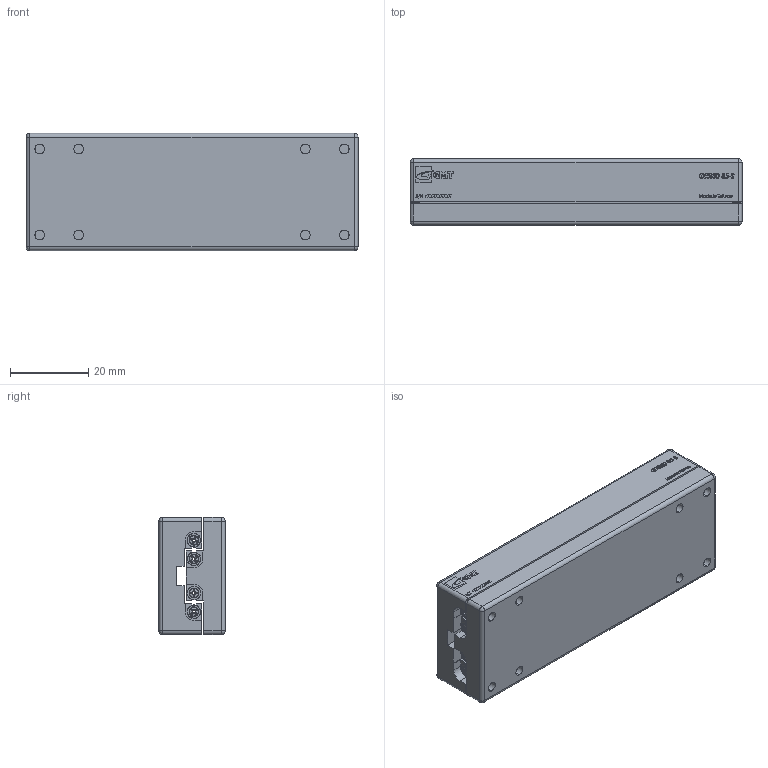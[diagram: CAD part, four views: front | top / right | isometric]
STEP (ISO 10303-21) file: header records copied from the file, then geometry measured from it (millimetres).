
FILE_DESCRIPTION (( 'STEP AP203' ), '1' );
FILE_NAME ('GRB30-85-S.STEP', '2013-12-17T06:01:11', ( '' ), ( '' ), 'SwSTEP 2.0', 'SolidWorks 2013', '' );
FILE_SCHEMA (( 'CONFIG_CONTROL_DESIGN' ));
Length unit declared in the file: millimetre
Products named in the file (1): GRB30-85-S
Bounding box: 85 x 17 x 30 mm (x, y, z)
Surface area: 16331.2 mm2 (no closed solid volume)
Topology: 0 solids, 56 shells, 431 faces, 2157 edges, 1776 vertices
Faces by surface type: plane 226, cylinder 109, torus 40, cone 32, sphere 24
Entity records: 26233 total; most frequent: CARTESIAN_POINT 9749, DIRECTION 3193, ORIENTED_EDGE 3012, EDGE_CURVE 2149, VERTEX_POINT 1776, VECTOR 1085, LINE 1085, AXIS2_PLACEMENT_3D 1054
